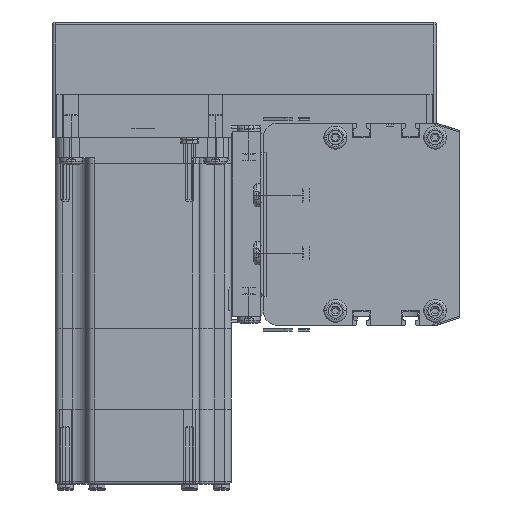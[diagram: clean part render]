
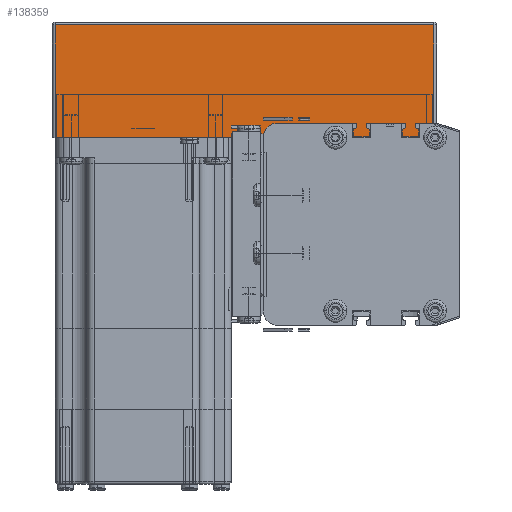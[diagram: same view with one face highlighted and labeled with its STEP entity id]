
A CAD part, left-side view. The second image highlights one B-rep face of the part: STEP entity #138359.
In plain terms, the highlighted planar face has unit normal (-1, 0, 0) as drawn and (0, -1, 0) by its records, which use the part's own axes.
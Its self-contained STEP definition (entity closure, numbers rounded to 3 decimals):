
#133558 = DIRECTION ( 'NONE',  ( -1., 0., 0. ) ) ;
#133559 = VECTOR ( 'NONE', #133558, 1000. ) ;
#133563 = CARTESIAN_POINT ( 'NONE',  ( 0., 0., 39. ) ) ;
#133565 = LINE ( 'NONE', #133563, #133559 ) ;
#138268 = EDGE_CURVE ( 'NONE', #138335, #138303, #133565, .T. ) ;
#138269 = ORIENTED_EDGE ( 'NONE', *, *, #138362, .T. ) ;
#138271 = EDGE_LOOP ( 'NONE', ( #138489, #138269, #138725, #138646 ) ) ;
#138303 = VERTEX_POINT ( 'NONE', #147408 ) ;
#138335 = VERTEX_POINT ( 'NONE', #147411 ) ;
#138359 = ADVANCED_FACE ( 'NONE', ( #147423 ), #147422, .F. ) ;
#138362 = EDGE_CURVE ( 'NONE', #138303, #138722, #147461, .T. ) ;
#138489 = ORIENTED_EDGE ( 'NONE', *, *, #138268, .T. ) ;
#138553 = EDGE_CURVE ( 'NONE', #138722, #138597, #147484, .T. ) ;
#138597 = VERTEX_POINT ( 'NONE', #147477 ) ;
#138646 = ORIENTED_EDGE ( 'NONE', *, *, #138653, .T. ) ;
#138653 = EDGE_CURVE ( 'NONE', #138597, #138335, #147526, .T. ) ;
#138722 = VERTEX_POINT ( 'NONE', #147508 ) ;
#138725 = ORIENTED_EDGE ( 'NONE', *, *, #138553, .T. ) ;
#147382 = CARTESIAN_POINT ( 'NONE',  ( 0., 0., 40. ) ) ;
#147408 = CARTESIAN_POINT ( 'NONE',  ( 1., 0., 39. ) ) ;
#147411 = CARTESIAN_POINT ( 'NONE',  ( 132., 0., 39. ) ) ;
#147413 = AXIS2_PLACEMENT_3D ( 'NONE', #147382, #147465, #147464 ) ;
#147422 = PLANE ( 'NONE',  #147413 ) ;
#147423 = FACE_OUTER_BOUND ( 'NONE', #138271, .T. ) ;
#147458 = DIRECTION ( 'NONE',  ( 0., 0., -1. ) ) ;
#147459 = VECTOR ( 'NONE', #147458, 1000. ) ;
#147460 = CARTESIAN_POINT ( 'NONE',  ( 1., 0., 40. ) ) ;
#147461 = LINE ( 'NONE', #147460, #147459 ) ;
#147464 = DIRECTION ( 'NONE',  ( 0., 0., 1. ) ) ;
#147465 = DIRECTION ( 'NONE',  ( 0., 1., 0. ) ) ;
#147474 = DIRECTION ( 'NONE',  ( 1., 0., 0. ) ) ;
#147475 = VECTOR ( 'NONE', #147474, 1000. ) ;
#147477 = CARTESIAN_POINT ( 'NONE',  ( 132., 0., 0. ) ) ;
#147483 = CARTESIAN_POINT ( 'NONE',  ( 0., 0., 0. ) ) ;
#147484 = LINE ( 'NONE', #147483, #147475 ) ;
#147508 = CARTESIAN_POINT ( 'NONE',  ( 1., 0., 0. ) ) ;
#147518 = VECTOR ( 'NONE', #147524, 1000. ) ;
#147524 = DIRECTION ( 'NONE',  ( 0., 0., 1. ) ) ;
#147525 = CARTESIAN_POINT ( 'NONE',  ( 132., 0., 40. ) ) ;
#147526 = LINE ( 'NONE', #147525, #147518 ) ;
